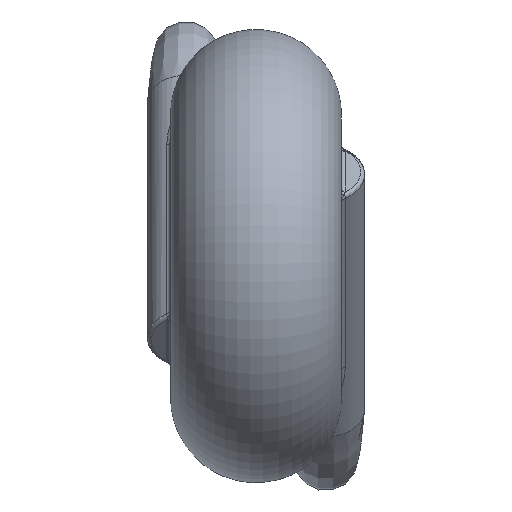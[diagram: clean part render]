
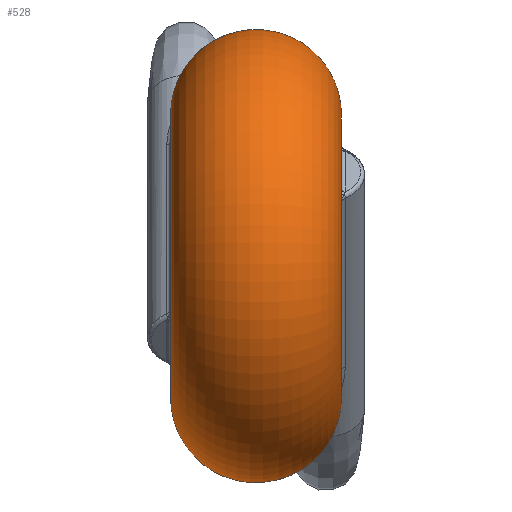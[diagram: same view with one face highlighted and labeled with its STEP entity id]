
A CAD part, left-side view. The second image highlights one B-rep face of the part: STEP entity #528.
In plain terms, the highlighted toroidal (fillet/blend) face has major radius 3.645 mm and minor radius 2.205 mm.
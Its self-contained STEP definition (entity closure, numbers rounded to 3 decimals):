
#20=TOROIDAL_SURFACE('',#582,3.645,2.205);
#77=B_SPLINE_CURVE_WITH_KNOTS('',3,(#1588,#1589,#1590,#1591,#1592,#1593,
#1594,#1595,#1596,#1597,#1598,#1599,#1600,#1601,#1602,#1603),
 .UNSPECIFIED.,.F.,.F.,(4,1,1,1,1,1,1,1,1,1,1,1,1,4),(-0.785,
-0.728,-0.672,-0.588,-0.56,
-0.504,-0.448,-0.392,-0.336,
-0.28,-0.224,-0.112,-0.056,
0.),.UNSPECIFIED.);
#78=B_SPLINE_CURVE_WITH_KNOTS('',3,(#1609,#1610,#1611,#1612,#1613,#1614,
#1615,#1616,#1617,#1618,#1619,#1620,#1621,#1622,#1623,#1624),
 .UNSPECIFIED.,.F.,.F.,(4,1,1,1,1,1,1,1,1,1,1,1,1,4),(-0.785,
-0.728,-0.672,-0.588,-0.56,
-0.504,-0.448,-0.392,-0.336,
-0.28,-0.224,-0.112,-0.056,
0.),.UNSPECIFIED.);
#95=FACE_BOUND('',#167,.T.);
#125=FACE_OUTER_BOUND('',#166,.T.);
#166=EDGE_LOOP('',(#417,#418));
#167=EDGE_LOOP('',(#419,#420));
#205=CIRCLE('',#583,3.645);
#206=CIRCLE('',#584,3.645);
#245=VERTEX_POINT('',#1503);
#246=VERTEX_POINT('',#1586);
#247=VERTEX_POINT('',#1607);
#248=VERTEX_POINT('',#1608);
#308=EDGE_CURVE('',#246,#245,#77,.T.);
#310=EDGE_CURVE('',#247,#248,#78,.T.);
#311=EDGE_CURVE('',#247,#248,#205,.T.);
#312=EDGE_CURVE('',#246,#245,#206,.T.);
#417=ORIENTED_EDGE('',*,*,#310,.T.);
#418=ORIENTED_EDGE('',*,*,#311,.F.);
#419=ORIENTED_EDGE('',*,*,#308,.T.);
#420=ORIENTED_EDGE('',*,*,#312,.F.);
#528=ADVANCED_FACE('',(#125,#95),#20,.T.);
#582=AXIS2_PLACEMENT_3D('',#1606,#693,#694);
#583=AXIS2_PLACEMENT_3D('',#1625,#695,#696);
#584=AXIS2_PLACEMENT_3D('',#1626,#697,#698);
#693=DIRECTION('center_axis',(0.,1.,0.));
#694=DIRECTION('ref_axis',(1.,0.,0.));
#695=DIRECTION('center_axis',(0.,-1.,0.));
#696=DIRECTION('ref_axis',(-1.,0.,0.));
#697=DIRECTION('center_axis',(0.,1.,0.));
#698=DIRECTION('ref_axis',(-1.,0.,0.));
#1503=CARTESIAN_POINT('',(2.108,3.6,2.974));
#1586=CARTESIAN_POINT('',(3.394,3.6,1.329));
#1588=CARTESIAN_POINT('Ctrl Pts',(3.394,3.6,1.329));
#1589=CARTESIAN_POINT('Ctrl Pts',(3.513,3.6,1.456));
#1590=CARTESIAN_POINT('Ctrl Pts',(3.767,3.566,1.691));
#1591=CARTESIAN_POINT('Ctrl Pts',(4.228,3.373,2.032));
#1592=CARTESIAN_POINT('Ctrl Pts',(4.565,3.071,2.295));
#1593=CARTESIAN_POINT('Ctrl Pts',(4.77,2.704,2.6));
#1594=CARTESIAN_POINT('Ctrl Pts',(4.838,2.379,2.891));
#1595=CARTESIAN_POINT('Ctrl Pts',(4.717,2.052,3.308));
#1596=CARTESIAN_POINT('Ctrl Pts',(4.419,1.906,3.755));
#1597=CARTESIAN_POINT('Ctrl Pts',(4.025,2.004,4.141));
#1598=CARTESIAN_POINT('Ctrl Pts',(3.627,2.319,4.351));
#1599=CARTESIAN_POINT('Ctrl Pts',(3.17,2.866,4.308));
#1600=CARTESIAN_POINT('Ctrl Pts',(2.832,3.327,3.88));
#1601=CARTESIAN_POINT('Ctrl Pts',(2.458,3.559,3.352));
#1602=CARTESIAN_POINT('Ctrl Pts',(2.231,3.6,3.093));
#1603=CARTESIAN_POINT('Ctrl Pts',(2.108,3.6,2.974));
#1606=CARTESIAN_POINT('Origin',(0.,1.395,0.));
#1607=CARTESIAN_POINT('',(3.394,-0.81,-1.329));
#1608=CARTESIAN_POINT('',(2.108,-0.81,-2.974));
#1609=CARTESIAN_POINT('Ctrl Pts',(3.394,-0.81,-1.329));
#1610=CARTESIAN_POINT('Ctrl Pts',(3.513,-0.81,-1.456));
#1611=CARTESIAN_POINT('Ctrl Pts',(3.767,-0.776,-1.691));
#1612=CARTESIAN_POINT('Ctrl Pts',(4.228,-0.583,-2.032));
#1613=CARTESIAN_POINT('Ctrl Pts',(4.565,-0.281,-2.295));
#1614=CARTESIAN_POINT('Ctrl Pts',(4.77,0.086,-2.6));
#1615=CARTESIAN_POINT('Ctrl Pts',(4.838,0.411,-2.891));
#1616=CARTESIAN_POINT('Ctrl Pts',(4.717,0.738,-3.308));
#1617=CARTESIAN_POINT('Ctrl Pts',(4.419,0.885,-3.755));
#1618=CARTESIAN_POINT('Ctrl Pts',(4.025,0.786,-4.141));
#1619=CARTESIAN_POINT('Ctrl Pts',(3.628,0.471,-4.351));
#1620=CARTESIAN_POINT('Ctrl Pts',(3.17,-0.075,-4.309));
#1621=CARTESIAN_POINT('Ctrl Pts',(2.832,-0.538,-3.879));
#1622=CARTESIAN_POINT('Ctrl Pts',(2.458,-0.769,-3.352));
#1623=CARTESIAN_POINT('Ctrl Pts',(2.231,-0.81,-3.093));
#1624=CARTESIAN_POINT('Ctrl Pts',(2.108,-0.81,-2.974));
#1625=CARTESIAN_POINT('Origin',(0.,-0.81,0.));
#1626=CARTESIAN_POINT('Origin',(0.,3.6,0.));
